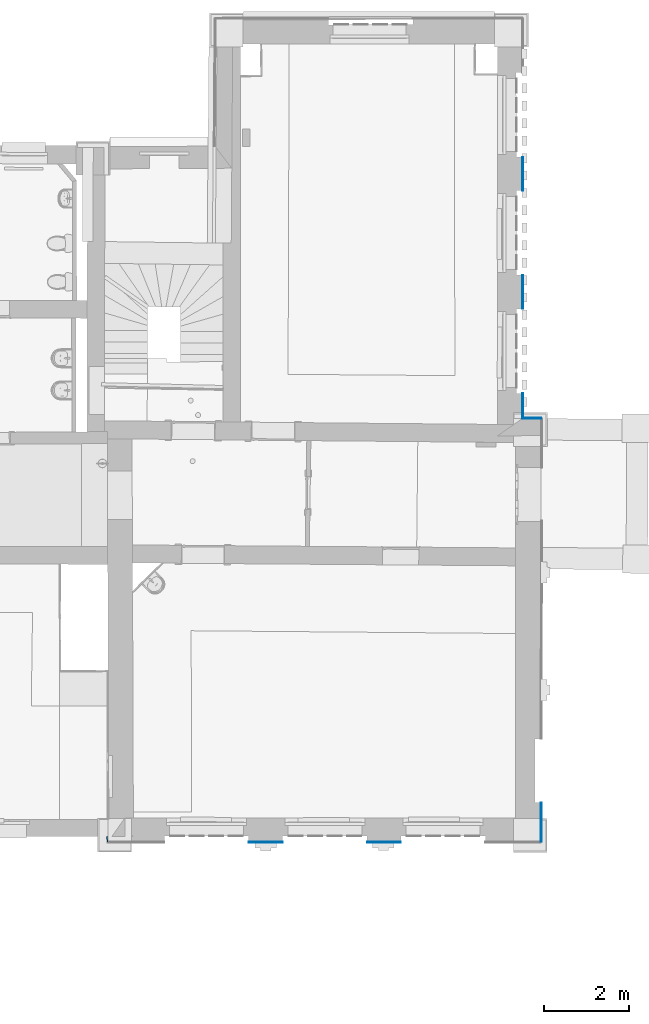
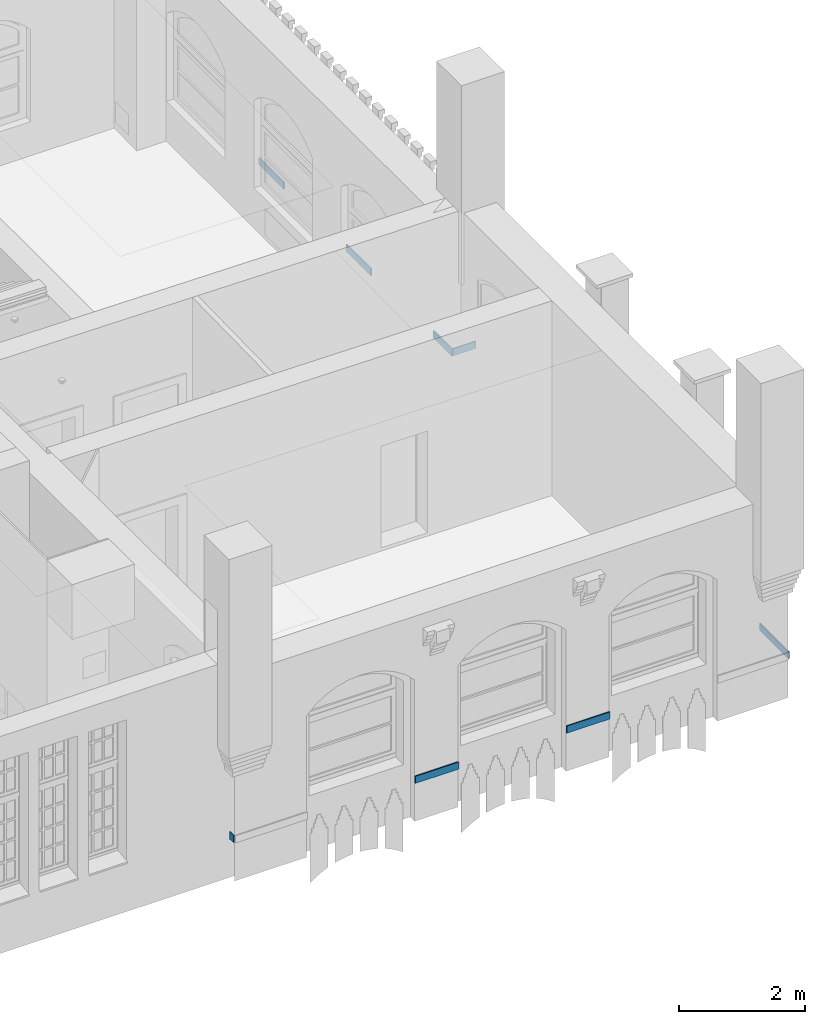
# One storey, part 39 of 90: 8 walls.
"""IFC2X3 building model written with IfcOpenShell, lengths in metres."""

import ifcopenshell
import ifcopenshell.guid

model = None  # the IFC model being written
_history = None  # IfcOwnerHistory: only IFC2X3 demands one
_inside = {}  # id of a spatial element -> (the spatial element, [elements in it])
_under = {}  # id of a project, library or spatial element -> (it, [spatial elements below it])
_declared = {}  # id of a project -> (the project, [libraries it declares])
_typed = {}  # id of a type object -> (the type object, [elements of that type])
_made_of = {}  # id of a material, layer set ... -> (it, [elements and type objects made of it])


def new_model(schema):
    """Start an empty IFC model of exactly this schema.

    Asked for "IFC4X3", IfcOpenShell would pick the latest addendum, in which some entities
    have other attributes; the version numbers below select the first issue.
    IFC2X3 requires an IfcOwnerHistory on every rooted entity: one is made here for all.
    """
    global model, _history
    if schema == "IFC4X3":
        model = ifcopenshell.file(schema_version=(4, 3, 0, 0))
    else:
        model = ifcopenshell.file(schema=schema)
    _inside.clear()
    _under.clear()
    _declared.clear()
    _typed.clear()
    _made_of.clear()
    _history = None
    if model.schema == "IFC2X3":
        org = make("IfcOrganization", Name="unknown")
        user = make(
            "IfcPersonAndOrganization",
            ThePerson=make("IfcPerson", FamilyName="unknown"),
            TheOrganization=org,
        )
        app = make(
            "IfcApplication",
            ApplicationDeveloper=org,
            Version="unknown",
            ApplicationFullName="unknown",
            ApplicationIdentifier="unknown",
        )
        _history = make(
            "IfcOwnerHistory",
            OwningUser=user,
            OwningApplication=app,
            ChangeAction="ADDED",
            CreationDate=0,
        )
    return model


def make(cls, **values):
    """One entity of the class cls with the attributes given. An attribute that is None is left unset."""
    return model.create_entity(
        cls, **{name: value for name, value in values.items() if value is not None}
    )


def entity(cls, *values):
    """Any entity or typed value of the class cls, its attributes in the order of the schema. None: left unset."""
    e = model.create_entity(cls)
    for i, value in enumerate(values):
        if value is not None:
            e[i] = value
    return e


def rooted(cls, **values):
    """An entity with a GlobalId (a new one), such as an element, a storey or a relation."""
    return make(cls, GlobalId=ifcopenshell.guid.new(), OwnerHistory=_history, **values)


def si_unit(unit_type, name, prefix=None):
    """IfcSIUnit, for example si_unit("LENGTHUNIT", "METRE", prefix="MILLI")."""
    return make("IfcSIUnit", UnitType=unit_type, Prefix=prefix, Name=name)


def converted_unit(unit_type, name, factor, base, dimensions=None, offset=None):
    """IfcConversionBasedUnit, such as the inch: factor (a typed value) times the base unit."""
    return make(
        "IfcConversionBasedUnit"
        if offset is None
        else "IfcConversionBasedUnitWithOffset",
        ConversionOffset=offset,
        Dimensions=None
        if dimensions is None
        else entity("IfcDimensionalExponents", *dimensions),
        UnitType=unit_type,
        Name=name,
        ConversionFactor=make(
            "IfcMeasureWithUnit", ValueComponent=factor, UnitComponent=base
        ),
    )


def derived_unit(unit_type, elements):
    """IfcDerivedUnit: a product of units, each with its exponent."""
    return make(
        "IfcDerivedUnit",
        Elements=[
            make("IfcDerivedUnitElement", Unit=unit, Exponent=power)
            for unit, power in elements
        ],
        UnitType=unit_type,
    )


def money_unit(currency):
    """IfcMonetaryUnit."""
    return make("IfcMonetaryUnit", Currency=currency)


def assignment(units):
    """IfcUnitAssignment: the units of a project."""
    return None if units is None else make("IfcUnitAssignment", Units=units)


def point(xyz):
    """IfcCartesianPoint."""
    return None if xyz is None else make("IfcCartesianPoint", Coordinates=xyz)


def direction(xyz):
    """IfcDirection."""
    return None if xyz is None else make("IfcDirection", DirectionRatios=xyz)


def frame(location, z_axis=None, x_axis=None):
    """IfcAxis2Placement3D, a coordinate frame: its origin and axes. An axis left out is left unset."""
    return make(
        "IfcAxis2Placement3D",
        Location=point(location),
        Axis=direction(z_axis),
        RefDirection=direction(x_axis),
    )


def origin_with_axes():
    """The frame at (0, 0, 0) with the z axis (0, 0, 1) and the x axis (1, 0, 0) written out."""
    return frame((0.0, 0.0, 0.0), z_axis=(0.0, 0.0, 1.0), x_axis=(1.0, 0.0, 0.0))


def place(relative_to, where):
    """IfcLocalPlacement: puts the frame where relative to a parent placement (None: the world)."""
    return make(
        "IfcLocalPlacement", PlacementRelTo=relative_to, RelativePlacement=where
    )


def context(
    kind, dimensions, precision=None, world=None, true_north=None, identifier=None
):
    """IfcGeometricRepresentationContext, for example the 3D "Model" context."""
    return make(
        "IfcGeometricRepresentationContext",
        ContextIdentifier=identifier,
        ContextType=kind,
        CoordinateSpaceDimension=dimensions,
        Precision=precision,
        WorldCoordinateSystem=world,
        TrueNorth=true_north,
    )


def subcontext(parent, identifier, kind, view, scale=None):
    """IfcGeometricRepresentationSubContext, for example "Body" below "Model"."""
    return make(
        "IfcGeometricRepresentationSubContext",
        ContextIdentifier=identifier,
        ContextType=kind,
        ParentContext=parent,
        TargetScale=scale,
        TargetView=view,
    )


def project(units=None, contexts=None):
    """IfcProject with its units and contexts."""
    return rooted(
        "IfcProject",
        Name="project",
        RepresentationContexts=contexts,
        UnitsInContext=assignment(units),
    )


def spatial(cls, under=None, at=None, **own):
    """A site, building, storey or space (cls), placed at a placement, below another one or the project."""
    s = rooted(cls, ObjectPlacement=at, **own)
    if under is not None:
        _under.setdefault(under.id(), (under, []))[1].append(s)
    return s


def polyline(points):
    """IfcPolyline through the points."""
    return make("IfcPolyline", Points=[point(p) for p in points])


def outline(outer, holes=None, kind="AREA"):
    """IfcArbitraryClosedProfileDef: a profile drawn as a closed curve; with holes, ...WithVoids."""
    if holes is None:
        return make("IfcArbitraryClosedProfileDef", ProfileType=kind, OuterCurve=outer)
    return make(
        "IfcArbitraryProfileDefWithVoids",
        ProfileType=kind,
        OuterCurve=outer,
        InnerCurves=holes,
    )


def extrude(swept, where, along, depth):
    """IfcExtrudedAreaSolid: the profile swept, set in the frame where, extruded along a direction by depth."""
    return make(
        "IfcExtrudedAreaSolid",
        SweptArea=swept,
        Position=where,
        ExtrudedDirection=direction(along),
        Depth=depth,
    )


def shape(context_of_items, identifier, shape_type, items):
    """IfcShapeRepresentation: the items that make up one representation, for example the "Body"."""
    return make(
        "IfcShapeRepresentation",
        ContextOfItems=context_of_items,
        RepresentationIdentifier=identifier,
        RepresentationType=shape_type,
        Items=items,
    )


def material(Name=None, Category=None):
    """IfcMaterial."""
    return make("IfcMaterial", Name=Name, Category=Category)


def made_of(thing, what):
    """Note that an element or type object is made of a material, layer set ...; save() writes the relation."""
    if what is not None:
        _made_of.setdefault(what.id(), (what, []))[1].append(thing)
    return thing


def type_object(cls, material=None, **own):
    """A type object (cls), such as IfcWallType, which elements share."""
    return made_of(rooted(cls, **own), material)


def element(
    cls,
    number,
    at=None,
    inside=None,
    cuts=None,
    type_object=None,
    material=None,
    context=None,
    identifier="Body",
    shape_type=None,
    held_by="IfcProductDefinitionShape",
    body=None,
    shapes=None,
    **own,
):
    """One element of the class cls, such as IfcWall. Its Tag is "e" and its number.

    at: its placement. inside: the storey or other place that contains it. cuts: it is an
    opening in that element (IfcRelVoidsElement). A single representation is given by context,
    identifier, shape_type and body (its items); several are given by shapes. held_by: the class
    of the entity that holds the representations. save() writes the other relations.
    """
    e = rooted(cls, Tag="e%d" % number, ObjectPlacement=at, **own)
    if body is not None:
        shapes = [shape(context, identifier, shape_type, body)]
    if shapes is not None:
        e.Representation = make(held_by, Representations=shapes)
    if inside is not None:
        _inside.setdefault(inside.id(), (inside, []))[1].append(e)
    if cuts is not None:
        rooted(
            "IfcRelVoidsElement", RelatingBuildingElement=cuts, RelatedOpeningElement=e
        )
    if type_object is not None:
        _typed.setdefault(type_object.id(), (type_object, []))[1].append(e)
    return made_of(e, material)


def aggregate(whole, parts):
    """IfcRelAggregates: a whole, such as a stair, and the parts it consists of."""
    return rooted("IfcRelAggregates", RelatingObject=whole, RelatedObjects=parts)


def save(model, path):
    """Write the relations noted so far, then the file.

    IfcRelAggregates (storeys below a building ...), IfcRelContainedInSpatialStructure (elements
    in a storey), IfcRelDefinesByType, IfcRelAssociatesMaterial and IfcRelDeclares: one each for
    every whole, place, type object, material and project.
    """
    for whole, parts in _under.values():
        aggregate(whole, parts)
    for where, things in _inside.values():
        rooted(
            "IfcRelContainedInSpatialStructure",
            RelatedElements=things,
            RelatingStructure=where,
        )
    for kind, things in _typed.values():
        rooted("IfcRelDefinesByType", RelatedObjects=things, RelatingType=kind)
    for what, things in _made_of.values():
        rooted("IfcRelAssociatesMaterial", RelatedObjects=things, RelatingMaterial=what)
    for by, libraries in _declared.values():
        rooted("IfcRelDeclares", RelatingContext=by, RelatedDefinitions=libraries)
    model.write(path)


model = new_model("IFC2X3")

# Units and contexts
model_context = context("Model", 3, precision=1e-05, world=origin_with_axes(), true_north=direction((0.0, 1.0)))
body_context = subcontext(model_context, "Body", "Model", "MODEL_VIEW")
ifc_project = project(units=[si_unit("LENGTHUNIT", "METRE"), si_unit("AREAUNIT", "SQUARE_METRE"), si_unit("VOLUMEUNIT", "CUBIC_METRE"), converted_unit("PLANEANGLEUNIT", "DEGREE", entity("IfcPlaneAngleMeasure", 0.0174532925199), si_unit("PLANEANGLEUNIT", "RADIAN"), dimensions=[0, 0, 0, 0, 0, 0, 0]), money_unit("EUR"), converted_unit("TIMEUNIT", "Year", entity("IfcTimeMeasure", 31556926.0), si_unit("TIMEUNIT", "SECOND"), dimensions=[0, 0, 1, 0, 0, 0, 0]), si_unit("MASSUNIT", "GRAM", prefix="KILO"), si_unit("THERMODYNAMICTEMPERATUREUNIT", "DEGREE_CELSIUS"), si_unit("LUMINOUSINTENSITYUNIT", "LUMEN"), si_unit("ENERGYUNIT", "JOULE", prefix="MEGA"), derived_unit("THERMALCONDUCTANCEUNIT", [(si_unit("POWERUNIT", "WATT"), 1), (si_unit("LENGTHUNIT", "METRE"), -1), (si_unit("THERMODYNAMICTEMPERATUREUNIT", "KELVIN"), -1)]), derived_unit("SPECIFICHEATCAPACITYUNIT", [(si_unit("ENERGYUNIT", "JOULE"), 1), (si_unit("MASSUNIT", "GRAM", prefix="KILO"), -1), (si_unit("THERMODYNAMICTEMPERATUREUNIT", "KELVIN"), -1)]), derived_unit("MASSDENSITYUNIT", [(si_unit("MASSUNIT", "GRAM", prefix="KILO"), 1), (si_unit("VOLUMEUNIT", "CUBIC_METRE"), -1)])], contexts=[model_context])

# Site, building, storey
site_placement = place(None, origin_with_axes())
site = spatial("IfcSite", under=ifc_project, at=site_placement, Name="Gelände", CompositionType="ELEMENT")
building_placement = place(site_placement, origin_with_axes())
building = spatial("IfcBuilding", under=site, at=building_placement, Name="Gebäude", CompositionType="ELEMENT")
storey_placement = place(building_placement, frame((0.0, 0.0, 3.7), z_axis=(0.0, 0.0, 1.0), x_axis=(1.0, 0.0, 0.0)))
storey = spatial("IfcBuildingStorey", under=building, at=storey_placement, Name="1.OBERGESCHOSS", CompositionType="ELEMENT", Elevation=3.7)

# Walls
ifc_material = material(Name="01_ALLGEMEIN - BAUTEIL")
wall_type = type_object("IfcWallType", Name="Fassade Sims 7 23 x 138", PredefinedType="ELEMENTEDWALL")
wall_1_placement = place(storey_placement, frame((31.6750351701, 25.9269264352, 0.784829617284), z_axis=(0.0, 0.0, 1.0), x_axis=(0.000336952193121, -0.999999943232, 0.0)))
element("IfcWall", 1, at=wall_1_placement, inside=storey, type_object=wall_type, material=ifc_material, Name="Wand-083", ObjectType="ELEMENTEDWALL", context=body_context, shape_type="SweptSolid", body=[
    extrude(outline(polyline([(0.0226167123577, 0.0), (0.0, 0.0), (0.0, -0.138037), (0.0226167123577, -0.138037), (0.0226167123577, 0.0)])), frame((0.0, 0.0, 0.0), z_axis=(1.0, 0.0, 0.0), x_axis=(0.0, 1.0, 0.0)), (0.0, 0.0, 1.0), 0.786961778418),
])
wall_2_placement = place(storey_placement, frame((31.6759668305, 23.1619635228, 0.784829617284), z_axis=(0.0, 0.0, 1.0), x_axis=(0.000336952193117, -0.999999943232, 0.0)))
element("IfcWall", 2, at=wall_2_placement, inside=storey, type_object=wall_type, material=ifc_material, Name="Wand-084", ObjectType="ELEMENTEDWALL", context=body_context, shape_type="SweptSolid", body=[
    extrude(outline(polyline([(0.0226167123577, 0.0), (0.0, 0.0), (0.0, -0.138037), (0.0226167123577, -0.138037), (0.0226167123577, 0.0)])), frame((0.0, 0.0, 0.0), z_axis=(1.0, 0.0, 0.0), x_axis=(0.0, 1.0, 0.0)), (0.0, 0.0, 1.0), 0.788535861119),
])
wall_3_placement = place(storey_placement, frame((31.6768990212, 20.3954265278, 0.784829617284), z_axis=(0.0, 0.0, 1.0), x_axis=(0.000336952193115, -0.999999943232, 0.0)))
element("IfcWall", 3, at=wall_3_placement, inside=storey, type_object=wall_type, material=ifc_material, Name="Wand-085", ObjectType="ELEMENTEDWALL", context=body_context, shape_type="SweptSolid", body=[
    extrude(outline(polyline([(0.0226167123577, 0.0), (0.0, 0.0), (0.0, -0.138037), (0.0226167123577, -0.138037), (0.0226167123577, 0.0)])), frame((0.0, 0.0, 0.0), z_axis=(1.0, 0.0, 0.0), x_axis=(0.0, 1.0, 0.0)), (0.0, 0.0, 1.0), 0.593514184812),
])
wall_4_placement = place(storey_placement, frame((31.6997157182, 19.8019199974, 0.784829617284), z_axis=(0.0, 0.0, 1.0), x_axis=(0.999984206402, 0.00562022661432, 0.0)))
element("IfcWall", 4, at=wall_4_placement, inside=storey, type_object=wall_type, material=ifc_material, Name="Wand-085", ObjectType="ELEMENTEDWALL", context=body_context, shape_type="SweptSolid", body=[
    extrude(outline(polyline([(0.0226167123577, 0.0), (0.0, 0.0), (0.0, -0.138037), (0.0226167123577, -0.138037), (0.0226167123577, 0.0)])), frame((0.0, 0.0, 0.0), z_axis=(1.0, 0.0, 0.0), x_axis=(0.0, 1.0, 0.0)), (0.0, 0.0, 1.0), 0.421040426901),
])
wall_5_placement = place(storey_placement, frame((32.1138895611, 10.8092333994, 0.784829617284), z_axis=(0.0, 0.0, 1.0), x_axis=(-0.000762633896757, -0.999999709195, 0.0)))
element("IfcWall", 5, at=wall_5_placement, inside=storey, type_object=wall_type, material=ifc_material, Name="Wand-088", ObjectType="ELEMENTEDWALL", context=body_context, shape_type="SweptSolid", body=[
    extrude(outline(polyline([(0.0226167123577, 0.0), (0.0, 0.0), (0.0, -0.138037), (0.0226167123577, -0.138037), (0.0226167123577, 0.0)])), frame((0.0, 0.0, 0.0), z_axis=(1.0, 0.0, 0.0), x_axis=(0.0, 1.0, 0.0)), (0.0, 0.0, 1.0), 0.917577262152),
])
wall_6_placement = place(storey_placement, frame((28.8371249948, 9.89077483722, 0.784829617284), z_axis=(0.0, 0.0, 1.0), x_axis=(-0.999999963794, -0.000269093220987, 0.0)))
element("IfcWall", 6, at=wall_6_placement, inside=storey, type_object=wall_type, material=ifc_material, Name="Wand-090", ObjectType="ELEMENTEDWALL", context=body_context, shape_type="SweptSolid", body=[
    extrude(outline(polyline([(0.0226167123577, 0.0), (0.0, 0.0), (0.0, -0.138037), (0.0226167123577, -0.138037), (0.0226167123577, 0.0)])), frame((0.0, 0.0, 0.0), z_axis=(1.0, 0.0, 0.0), x_axis=(0.0, 1.0, 0.0)), (0.0, 0.0, 1.0), 0.79240576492),
])
wall_7_placement = place(storey_placement, frame((26.0667180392, 9.89002933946, 0.784829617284), z_axis=(0.0, 0.0, 1.0), x_axis=(-0.999999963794, -0.000269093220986, 0.0)))
element("IfcWall", 7, at=wall_7_placement, inside=storey, type_object=wall_type, material=ifc_material, Name="Wand-091", ObjectType="ELEMENTEDWALL", context=body_context, shape_type="SweptSolid", body=[
    extrude(outline(polyline([(0.0226167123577, 0.0), (0.0, 0.0), (0.0, -0.138037), (0.0226167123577, -0.138037), (0.0226167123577, 0.0)])), frame((0.0, 0.0, 0.0), z_axis=(1.0, 0.0, 0.0), x_axis=(0.0, 1.0, 0.0)), (0.0, 0.0, 1.0), 0.794890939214),
])
wall_8_placement = place(storey_placement, frame((21.9753819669, 9.88892838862, 0.784829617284), z_axis=(0.0, 0.0, 1.0), x_axis=(-0.00946795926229, 0.999955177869, 0.0)))
element("IfcWall", 8, at=wall_8_placement, inside=storey, type_object=wall_type, material=ifc_material, Name="Wand-093", ObjectType="ELEMENTEDWALL", context=body_context, shape_type="SweptSolid", body=[
    extrude(outline(polyline([(0.0226167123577, 0.0), (0.0, 0.0), (0.0, -0.138037), (0.0226167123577, -0.138037), (0.0226167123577, 0.0)])), frame((0.0, 0.0, 0.0), z_axis=(1.0, 0.0, 0.0), x_axis=(0.0, 1.0, 0.0)), (0.0, 0.0, 1.0), 0.125505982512),
])

save(model, "model.ifc")
